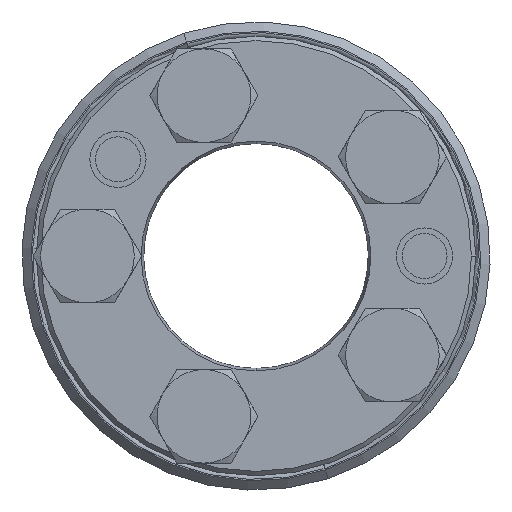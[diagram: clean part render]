
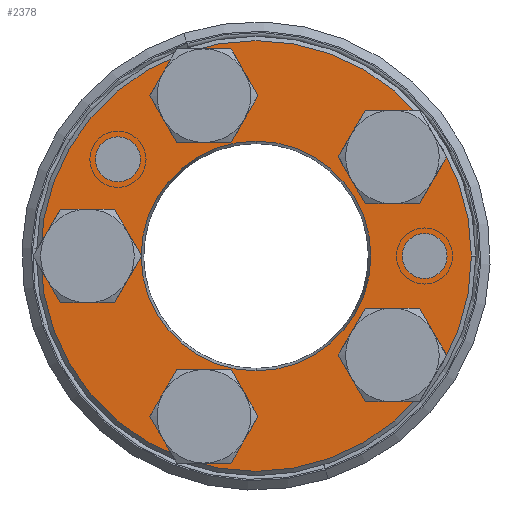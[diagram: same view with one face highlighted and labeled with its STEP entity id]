
A CAD part, left-side view. The second image highlights one B-rep face of the part: STEP entity #2378.
In plain terms, the highlighted planar face has unit normal (-1, 0, 0) as drawn and (0, 0, 1) by its records, which use the part's own axes.
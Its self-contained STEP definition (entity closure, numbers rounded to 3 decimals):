
#1546=CARTESIAN_POINT('',(0.,0.,4.));
#1547=DIRECTION('',(0.,0.,-1.));
#1548=DIRECTION('',(0.,-1.,0.));
#1549=AXIS2_PLACEMENT_3D('',#1546,#1547,#1548);
#1551=CARTESIAN_POINT('',(0.,0.,4.));
#1552=DIRECTION('',(0.,0.,-1.));
#1553=DIRECTION('',(0.,1.,0.));
#1554=AXIS2_PLACEMENT_3D('',#1551,#1552,#1553);
#1556=CARTESIAN_POINT('',(0.,0.,4.));
#1557=DIRECTION('',(0.,0.,1.));
#1558=DIRECTION('',(1.,0.,0.));
#1559=AXIS2_PLACEMENT_3D('',#1556,#1557,#1558);
#1561=CARTESIAN_POINT('',(0.,0.,4.));
#1562=DIRECTION('',(0.,0.,1.));
#1563=DIRECTION('',(-1.,0.,0.));
#1564=AXIS2_PLACEMENT_3D('',#1561,#1562,#1563);
#1566=CARTESIAN_POINT('',(0.,18.,4.));
#1567=DIRECTION('',(0.,0.,1.));
#1568=DIRECTION('',(1.,0.,0.));
#1569=AXIS2_PLACEMENT_3D('',#1566,#1567,#1568);
#1571=CARTESIAN_POINT('',(0.,18.,4.));
#1572=DIRECTION('',(0.,0.,1.));
#1573=DIRECTION('',(-1.,0.,0.));
#1574=AXIS2_PLACEMENT_3D('',#1571,#1572,#1573);
#1576=CARTESIAN_POINT('',(17.119,5.562,4.));
#1577=DIRECTION('',(0.,0.,1.));
#1578=DIRECTION('',(1.,0.,0.));
#1579=AXIS2_PLACEMENT_3D('',#1576,#1577,#1578);
#1581=CARTESIAN_POINT('',(17.119,5.562,4.));
#1582=DIRECTION('',(0.,0.,1.));
#1583=DIRECTION('',(-1.,0.,0.));
#1584=AXIS2_PLACEMENT_3D('',#1581,#1582,#1583);
#1586=CARTESIAN_POINT('',(10.58,-14.562,4.));
#1587=DIRECTION('',(0.,0.,1.));
#1588=DIRECTION('',(1.,0.,0.));
#1589=AXIS2_PLACEMENT_3D('',#1586,#1587,#1588);
#1591=CARTESIAN_POINT('',(10.58,-14.562,4.));
#1592=DIRECTION('',(0.,0.,1.));
#1593=DIRECTION('',(-1.,0.,0.));
#1594=AXIS2_PLACEMENT_3D('',#1591,#1592,#1593);
#1596=CARTESIAN_POINT('',(-10.58,-14.562,4.));
#1597=DIRECTION('',(0.,0.,1.));
#1598=DIRECTION('',(1.,0.,0.));
#1599=AXIS2_PLACEMENT_3D('',#1596,#1597,#1598);
#1601=CARTESIAN_POINT('',(-10.58,-14.562,4.));
#1602=DIRECTION('',(0.,0.,1.));
#1603=DIRECTION('',(-1.,0.,0.));
#1604=AXIS2_PLACEMENT_3D('',#1601,#1602,#1603);
#1606=CARTESIAN_POINT('',(-17.119,5.562,4.));
#1607=DIRECTION('',(0.,0.,1.));
#1608=DIRECTION('',(1.,0.,0.));
#1609=AXIS2_PLACEMENT_3D('',#1606,#1607,#1608);
#1611=CARTESIAN_POINT('',(-17.119,5.562,4.));
#1612=DIRECTION('',(0.,0.,1.));
#1613=DIRECTION('',(-1.,0.,0.));
#1614=AXIS2_PLACEMENT_3D('',#1611,#1612,#1613);
#1616=CARTESIAN_POINT('',(10.324,14.745,4.));
#1617=DIRECTION('',(0.,0.,1.));
#1618=DIRECTION('',(1.,0.,0.));
#1619=AXIS2_PLACEMENT_3D('',#1616,#1617,#1618);
#1621=CARTESIAN_POINT('',(10.324,14.745,4.));
#1622=DIRECTION('',(0.,0.,1.));
#1623=DIRECTION('',(-1.,0.,0.));
#1624=AXIS2_PLACEMENT_3D('',#1621,#1622,#1623);
#1626=CARTESIAN_POINT('',(0.,-18.,4.));
#1627=DIRECTION('',(0.,0.,1.));
#1628=DIRECTION('',(1.,0.,0.));
#1629=AXIS2_PLACEMENT_3D('',#1626,#1627,#1628);
#1631=CARTESIAN_POINT('',(0.,-18.,4.));
#1632=DIRECTION('',(0.,0.,1.));
#1633=DIRECTION('',(-1.,0.,0.));
#1634=AXIS2_PLACEMENT_3D('',#1631,#1632,#1633);
#2019=CARTESIAN_POINT('',(-3.3,18.,4.));
#2020=VERTEX_POINT('',#2019);
#2021=CARTESIAN_POINT('',(3.3,18.,4.));
#2022=VERTEX_POINT('',#2021);
#2023=CARTESIAN_POINT('',(0.,-23.,4.));
#2024=CARTESIAN_POINT('',(0.,23.,4.));
#2025=VERTEX_POINT('',#2023);
#2026=VERTEX_POINT('',#2024);
#2027=CARTESIAN_POINT('',(12.268,0.,4.));
#2028=CARTESIAN_POINT('',(-12.268,0.,
4.));
#2029=VERTEX_POINT('',#2027);
#2030=VERTEX_POINT('',#2028);
#2031=CARTESIAN_POINT('',(20.419,5.562,4.));
#2032=CARTESIAN_POINT('',(13.819,5.562,4.));
#2033=VERTEX_POINT('',#2031);
#2034=VERTEX_POINT('',#2032);
#2035=CARTESIAN_POINT('',(13.88,-14.562,4.));
#2036=CARTESIAN_POINT('',(7.28,-14.562,4.));
#2037=VERTEX_POINT('',#2035);
#2038=VERTEX_POINT('',#2036);
#2039=CARTESIAN_POINT('',(-7.28,-14.562,4.));
#2040=CARTESIAN_POINT('',(-13.88,-14.562,4.));
#2041=VERTEX_POINT('',#2039);
#2042=VERTEX_POINT('',#2040);
#2043=CARTESIAN_POINT('',(-13.819,5.562,4.));
#2044=CARTESIAN_POINT('',(-20.419,5.562,4.));
#2045=VERTEX_POINT('',#2043);
#2046=VERTEX_POINT('',#2044);
#2047=CARTESIAN_POINT('',(12.724,14.745,4.));
#2048=CARTESIAN_POINT('',(7.924,14.745,4.));
#2049=VERTEX_POINT('',#2047);
#2050=VERTEX_POINT('',#2048);
#2051=CARTESIAN_POINT('',(2.4,-18.,4.));
#2052=CARTESIAN_POINT('',(-2.4,-18.,4.));
#2053=VERTEX_POINT('',#2051);
#2054=VERTEX_POINT('',#2052);
#2320=CARTESIAN_POINT('',(0.,0.,4.));
#2321=DIRECTION('',(0.,0.,-1.));
#2322=DIRECTION('',(0.,-1.,0.));
#2323=AXIS2_PLACEMENT_3D('',#2320,#2321,#2322);
#2324=PLANE('',#2323);
#2326=ORIENTED_EDGE('',*,*,#2325,.T.);
#2327=ORIENTED_EDGE('',*,*,#2310,.T.);
#2328=EDGE_LOOP('',(#2326,#2327));
#2329=FACE_OUTER_BOUND('',#2328,.F.);
#2331=ORIENTED_EDGE('',*,*,#2330,.T.);
#2333=ORIENTED_EDGE('',*,*,#2332,.T.);
#2334=EDGE_LOOP('',(#2331,#2333));
#2335=FACE_BOUND('',#2334,.F.);
#2337=ORIENTED_EDGE('',*,*,#2336,.T.);
#2339=ORIENTED_EDGE('',*,*,#2338,.T.);
#2340=EDGE_LOOP('',(#2337,#2339));
#2341=FACE_BOUND('',#2340,.F.);
#2343=ORIENTED_EDGE('',*,*,#2342,.T.);
#2345=ORIENTED_EDGE('',*,*,#2344,.T.);
#2346=EDGE_LOOP('',(#2343,#2345));
#2347=FACE_BOUND('',#2346,.F.);
#2349=ORIENTED_EDGE('',*,*,#2348,.T.);
#2351=ORIENTED_EDGE('',*,*,#2350,.T.);
#2352=EDGE_LOOP('',(#2349,#2351));
#2353=FACE_BOUND('',#2352,.F.);
#2355=ORIENTED_EDGE('',*,*,#2354,.T.);
#2357=ORIENTED_EDGE('',*,*,#2356,.T.);
#2358=EDGE_LOOP('',(#2355,#2357));
#2359=FACE_BOUND('',#2358,.F.);
#2361=ORIENTED_EDGE('',*,*,#2360,.T.);
#2363=ORIENTED_EDGE('',*,*,#2362,.T.);
#2364=EDGE_LOOP('',(#2361,#2363));
#2365=FACE_BOUND('',#2364,.F.);
#2367=ORIENTED_EDGE('',*,*,#2366,.T.);
#2369=ORIENTED_EDGE('',*,*,#2368,.T.);
#2370=EDGE_LOOP('',(#2367,#2369));
#2371=FACE_BOUND('',#2370,.F.);
#2373=ORIENTED_EDGE('',*,*,#2372,.T.);
#2375=ORIENTED_EDGE('',*,*,#2374,.T.);
#2376=EDGE_LOOP('',(#2373,#2375));
#2377=FACE_BOUND('',#2376,.F.);
#2378=ADVANCED_FACE('',(#2329,#2335,#2341,#2347,#2353,#2359,#2365,#2371,#2377),
#2324,.F.);
#1550=CIRCLE('',#1549,23.);
#1555=CIRCLE('',#1554,23.);
#1560=CIRCLE('',#1559,12.268);
#1565=CIRCLE('',#1564,12.268);
#1570=CIRCLE('',#1569,3.3);
#1575=CIRCLE('',#1574,3.3);
#1580=CIRCLE('',#1579,3.3);
#1585=CIRCLE('',#1584,3.3);
#1590=CIRCLE('',#1589,3.3);
#1595=CIRCLE('',#1594,3.3);
#1600=CIRCLE('',#1599,3.3);
#1605=CIRCLE('',#1604,3.3);
#1610=CIRCLE('',#1609,3.3);
#1615=CIRCLE('',#1614,3.3);
#1620=CIRCLE('',#1619,2.4);
#1625=CIRCLE('',#1624,2.4);
#1630=CIRCLE('',#1629,2.4);
#1635=CIRCLE('',#1634,2.4);
#2310=EDGE_CURVE('',#2026,#2025,#1555,.T.);
#2325=EDGE_CURVE('',#2025,#2026,#1550,.T.);
#2330=EDGE_CURVE('',#2029,#2030,#1560,.T.);
#2332=EDGE_CURVE('',#2030,#2029,#1565,.T.);
#2336=EDGE_CURVE('',#2022,#2020,#1570,.T.);
#2338=EDGE_CURVE('',#2020,#2022,#1575,.T.);
#2342=EDGE_CURVE('',#2033,#2034,#1580,.T.);
#2344=EDGE_CURVE('',#2034,#2033,#1585,.T.);
#2348=EDGE_CURVE('',#2037,#2038,#1590,.T.);
#2350=EDGE_CURVE('',#2038,#2037,#1595,.T.);
#2354=EDGE_CURVE('',#2041,#2042,#1600,.T.);
#2356=EDGE_CURVE('',#2042,#2041,#1605,.T.);
#2360=EDGE_CURVE('',#2045,#2046,#1610,.T.);
#2362=EDGE_CURVE('',#2046,#2045,#1615,.T.);
#2366=EDGE_CURVE('',#2049,#2050,#1620,.T.);
#2368=EDGE_CURVE('',#2050,#2049,#1625,.T.);
#2372=EDGE_CURVE('',#2053,#2054,#1630,.T.);
#2374=EDGE_CURVE('',#2054,#2053,#1635,.T.);
